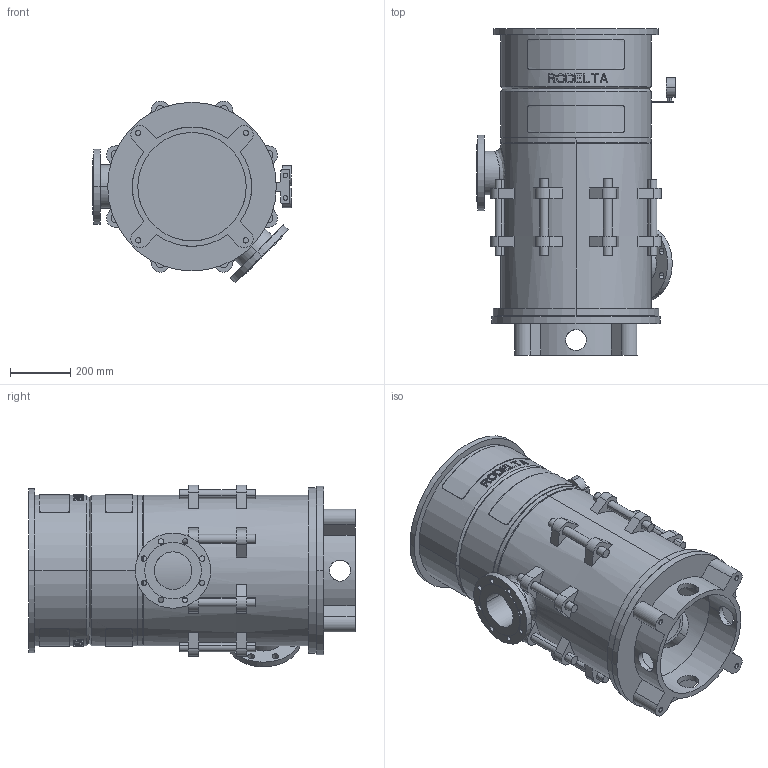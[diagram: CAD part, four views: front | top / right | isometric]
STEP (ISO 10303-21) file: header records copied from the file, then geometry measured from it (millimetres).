
FILE_DESCRIPTION((''),'2;1');
FILE_NAME('LS5_2TR_0GR_ABOVE_30KW','2023-08-08T',('Lyritlocal'),(''),'PRO/ENGINEER BY PARAMETRIC TECHNOLOGY CORPORATION, 2016360','PRO/ENGINEER BY PARAMETRIC TECHNOLOGY CORPORATION, 2016360','');
FILE_SCHEMA(('CONFIG_CONTROL_DESIGN'));
Length unit declared in the file: millimetre
Products named in the file (1): LS5_2TR_0GR_ABOVE_30KW
Bounding box: 660 x 1084 x 603.65 mm (x, y, z)
Volume: 36327209.8 mm3; surface area: 5025285.8 mm2
Topology: 3 solids, 7 shells, 672 faces, 1747 edges, 1158 vertices
Faces by surface type: plane 414, cylinder 242, cone 12, bspline 4
Entity records: 21957 total; most frequent: CARTESIAN_POINT 5513, ORIENTED_EDGE 3478, DIRECTION 3269, EDGE_CURVE 1747, AXIS2_PLACEMENT_3D 1241, VERTEX_POINT 1158, EDGE_LOOP 809, VECTOR 787
